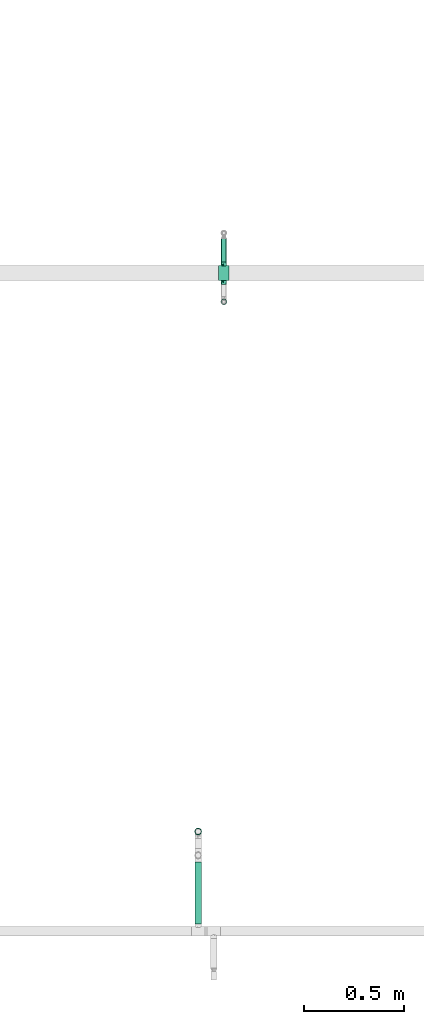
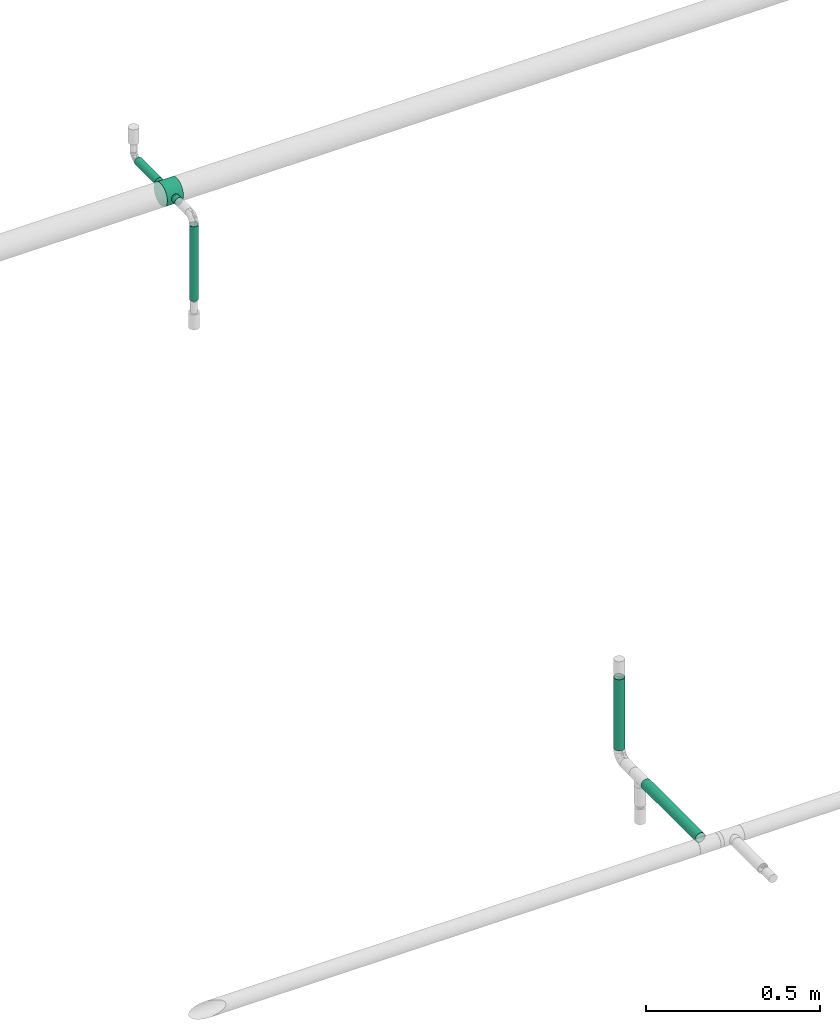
# One storey, part 9 of 51: 4 flow segments, 1 flow fitting.
"""IFC2X3 building model written with IfcOpenShell, lengths in millimetres."""

from ifc_helpers import new_model, entity, si_unit, converted_unit, derived_unit, direction, frame, origin_with_axes, origin_2d_with_axis, place, context, subcontext, project, spatial, hollow_circle, extrude, open_shell, surface_model, source, transform, mapped, type_object, element, save


model = new_model("IFC2X3")

# Units and contexts
model_context = context("Model", 3, precision=0.01, world=frame((0.0, 4.29681676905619e-09, 0.0)), true_north=direction((4.01073788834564e-13, 1.0)))
plan_context = context("Plan", 3, precision=0.01, world=frame((0.0, 4.29681676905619e-09, 0.0)), true_north=direction((4.01073788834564e-13, 1.0)))
body_context = subcontext(model_context, "Body", "Model", "MODEL_VIEW")
ifc_project = project(units=[converted_unit("PLANEANGLEUNIT", "DEGREE", entity("IfcPositiveLengthMeasure", 0.0174532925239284), si_unit("PLANEANGLEUNIT", "RADIAN"), dimensions=[0, 0, 0, 0, 0, 0, 0]), si_unit("AREAUNIT", "SQUARE_METRE"), si_unit("LENGTHUNIT", "METRE", prefix="MILLI"), si_unit("MASSUNIT", "GRAM", prefix="KILO"), si_unit("POWERUNIT", "WATT"), si_unit("PRESSUREUNIT", "PASCAL"), si_unit("FORCEUNIT", "NEWTON", prefix="KILO"), si_unit("ELECTRICVOLTAGEUNIT", "VOLT"), si_unit("ELECTRICCURRENTUNIT", "AMPERE"), si_unit("THERMODYNAMICTEMPERATUREUNIT", "DEGREE_CELSIUS"), si_unit("TIMEUNIT", "SECOND"), si_unit("VOLUMEUNIT", "CUBIC_METRE"), derived_unit("LINEARVELOCITYUNIT", [(si_unit("LENGTHUNIT", "METRE"), 1), (si_unit("TIMEUNIT", "SECOND"), -1)]), derived_unit("VOLUMETRICFLOWRATEUNIT", [(si_unit("VOLUMEUNIT", "CUBIC_METRE"), 1), (si_unit("TIMEUNIT", "SECOND"), -1)]), derived_unit("THERMALTRANSMITTANCEUNIT", [(si_unit("POWERUNIT", "WATT"), 1), (si_unit("THERMODYNAMICTEMPERATUREUNIT", "KELVIN"), -1), (si_unit("AREAUNIT", "SQUARE_METRE"), -1)]), derived_unit("SOUNDPRESSUREUNIT", [(si_unit("PRESSUREUNIT", "PASCAL"), 1)])], contexts=[model_context, plan_context])

# Site, building, storey
site_placement = place(None, frame((0.0, -4.29681676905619e-09, 0.0), z_axis=(0.0, 0.0, 1.0), x_axis=(1.0, 0.0, 0.0)))
site = spatial("IfcSite", under=ifc_project, at=site_placement, Name="ENGM", CompositionType="ELEMENT")
building_placement = place(site_placement, frame((0.0, 4.29681676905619e-09, 0.0), z_axis=(0.0, 0.0, 1.0), x_axis=(1.0, 0.0, 0.0)))
building = spatial("IfcBuilding", under=site, at=building_placement, Name="TH", CompositionType="ELEMENT")
storey_placement = place(building_placement, frame((0.0, 0.0, 210200.0), z_axis=(0.0, 0.0, 1.0), x_axis=(1.0, 0.0, 0.0)))
storey = spatial("IfcBuildingStorey", under=building, at=storey_placement, Name="Nivå F - 0,7 m", CompositionType="ELEMENT", Elevation=210200.0)

# Flow fitting
pipe_fitting_type = type_object("IfcPipeFittingType", Name="magi_pipe_fe_cross_centric_90_001", PredefinedType="JUNCTION")
shared_shape_1 = source(origin_with_axes(), body_context, "Body", "SurfaceModel", [
    surface_model("IfcShellBasedSurfaceModel", [(-26.8, 19.05, -32.99557), (-26.8, 9.86101, -36.80177), (-26.8, 0.0, -38.1), (-26.8, 26.94077, -26.94077), (-26.8, 36.80177, -9.86101), (-26.8, 32.99557, -19.05), (-26.8, -36.80177, 9.86101), (-26.8, -38.1, 0.0), (-26.8, -19.05, -32.99557), (-26.8, -26.94077, -26.94077), (-26.8, -9.86101, -36.80177), (-26.8, -36.80177, -9.86101), (-26.8, -32.99557, -19.05), (-26.8, 38.1, 0.0), (-26.8, 32.99557, 19.05), (-26.8, 36.80177, 9.86101), (-26.8, 19.05, 32.99557), (-26.8, 26.94077, 26.94077), (-26.8, 0.0, 38.1), (-26.8, 9.86101, 36.80177), (-26.8, -26.94077, 26.94077), (-26.8, -32.99557, 19.05), (-26.8, -9.86101, 36.80177), (-26.8, -19.05, 32.99557), (26.8, 0.0, -38.1), (26.8, 9.86101, -36.80177), (26.8, 19.05, -32.99557), (26.8, 26.94077, -26.94077), (26.8, 32.99557, -19.05), (26.8, 36.80177, -9.86101), (26.8, -26.94077, -26.94077), (26.8, -38.1, 0.0), (26.8, -9.86101, -36.80177), (26.8, -19.05, -32.99557), (26.8, -32.99557, -19.05), (26.8, -36.80177, -9.86101), (26.8, 36.80177, 9.86101), (26.8, 32.99557, 19.05), (26.8, 19.05, 32.99557), (26.8, 0.0, 38.1), (26.8, 26.94077, 26.94077), (26.8, 9.86101, 36.80177), (26.8, -32.99557, 19.05), (26.8, -26.94077, 26.94077), (26.8, -36.80177, 9.86101), (26.8, -19.05, 32.99557), (26.8, -9.86101, 36.80177), (26.8, 38.1, 0.0), (10.25617, -37.11117, 8.62386), (26.8, -37.45089, 4.9305), (12.58238, -37.82018, 4.60909), (13.4, -38.1, 0.0), (6.72002, -36.29337, 11.59316), (2.34178, -35.74261, 13.19379), (-12.58238, 37.82018, 4.60909), (-26.8, 37.45089, 4.9305), (-10.25983, -37.11218, 8.6195), (-6.72112, -36.29357, 11.59252), (-26.8, -37.45089, 4.9305), (-13.4, -38.1, 0.0), (-12.58273, -37.8203, 4.60814), (-2.34536, -35.74284, 13.19315), (12.58273, 37.8203, 4.60814), (26.8, 37.45089, 4.9305), (13.4, 38.1, 0.0), (10.25983, 37.11218, 8.6195), (6.72112, 36.29357, 11.59252), (2.34536, 35.74284, 13.19315), (-2.34178, 35.74261, 13.19379), (-6.72002, 36.29337, 11.59316), (-10.25617, 37.11117, 8.62386), (-13.4, 38.1, 0.0), (10.25983, 37.11218, -8.6195), (26.8, 37.45089, -4.9305), (12.58273, 37.8203, -4.60814), (6.72112, 36.29357, -11.59252), (-10.25617, 37.11117, -8.62386), (-26.8, 37.45089, -4.9305), (-12.58238, 37.82018, -4.60909), (2.34536, 35.74284, -13.19315), (-2.34178, 35.74261, -13.19379), (-6.72002, 36.29337, -11.59316), (-12.58273, -37.8203, -4.60814), (-26.8, -37.45089, -4.9305), (10.25617, -37.11117, -8.62386), (26.8, -37.45089, -4.9305), (12.58238, -37.82018, -4.60909), (6.72002, -36.29337, -11.59316), (2.34178, -35.74261, -13.19379), (-2.34536, -35.74284, -13.19315), (-6.72112, -36.29357, -11.59252), (-10.25983, -37.11218, -8.6195), (9.47523, -57.15, -9.47523), (0.0, -57.15, -13.4), (3.46818, -57.15, -12.94341), (6.7, -57.15, -11.60474), (11.60474, -57.15, -6.7), (12.94341, -57.15, -3.46818), (-12.94341, -57.15, 3.46818), (-12.94341, -57.15, -3.46818), (-3.46818, -57.15, -12.94341), (-9.47523, -57.15, -9.47523), (-6.7, -57.15, -11.60474), (-11.60474, -57.15, -6.7), (-13.4, -57.15, 0.0), (13.4, -57.15, 0.0), (12.94341, -57.15, 3.46818), (11.60474, -57.15, 6.7), (6.7, -57.15, 11.60474), (9.47523, -57.15, 9.47523), (3.46818, -57.15, 12.94341), (-9.47523, -57.15, 9.47523), (-11.60474, -57.15, 6.7), (-6.7, -57.15, 11.60474), (-3.46818, -57.15, 12.94341), (0.0, -57.15, 13.4), (-12.99136, -37.96015, 2.30407), (-4.53324, -36.01821, 12.39284), (-0.00179, -35.74272, 13.19347), (4.5309, -36.01799, 12.39347), (12.99119, -37.96009, 2.30455), (12.99119, -37.96009, -2.30455), (-12.99136, -37.96015, -2.30407), (4.5309, -36.01799, -12.39347), (-0.00179, -35.74272, -13.19347), (-4.53324, -36.01821, -12.39284), (0.0, 57.15, -13.4), (-3.46818, 57.15, -12.94341), (-6.7, 57.15, -11.60474), (-9.47523, 57.15, -9.47523), (-11.60474, 57.15, -6.7), (-12.94341, 57.15, -3.46818), (11.60474, 57.15, -6.7), (12.94341, 57.15, 3.46818), (12.94341, 57.15, -3.46818), (3.46818, 57.15, -12.94341), (9.47523, 57.15, -9.47523), (6.7, 57.15, -11.60474), (13.4, 57.15, 0.0), (-13.4, 57.15, 0.0), (-12.94341, 57.15, 3.46818), (-11.60474, 57.15, 6.7), (-6.7, 57.15, 11.60474), (-9.47523, 57.15, 9.47523), (0.0, 57.15, 13.4), (-3.46818, 57.15, 12.94341), (11.60474, 57.15, 6.7), (6.7, 57.15, 11.60474), (9.47523, 57.15, 9.47523), (3.46818, 57.15, 12.94341), (12.99136, 37.96015, 2.30407), (4.53324, 36.01821, 12.39284), (0.00179, 35.74272, 13.19347), (-4.5309, 36.01799, 12.39347), (-12.99119, 37.96009, 2.30455), (-12.99119, 37.96009, -2.30455), (12.99136, 37.96015, -2.30407), (-4.5309, 36.01799, -12.39347), (0.00179, 35.74272, -13.19347), (4.53324, 36.01821, -12.39284)], [open_shell([[[0, 1, 2]], [[3, 0, 2]], [[4, 5, 3]], [[6, 2, 7]], [[2, 6, 3]], [[8, 9, 10]], [[7, 10, 9]], [[11, 7, 12]], [[9, 12, 7]], [[7, 2, 10]], [[13, 4, 3]], [[14, 15, 13]], [[14, 13, 6]], [[6, 16, 14]], [[17, 14, 16]], [[16, 18, 19]], [[20, 18, 21]], [[6, 21, 18]], [[22, 18, 23]], [[20, 23, 18]], [[18, 16, 6]], [[3, 6, 13]], [[24, 25, 26]], [[24, 26, 27]], [[27, 28, 29]], [[24, 27, 30]], [[31, 27, 29]], [[32, 30, 33]], [[32, 24, 30]], [[34, 31, 35]], [[31, 34, 30]], [[27, 31, 30]], [[29, 36, 31]], [[36, 37, 31]], [[31, 37, 38]], [[38, 39, 31]], [[38, 37, 40]], [[39, 38, 41]], [[42, 39, 43]], [[44, 31, 42]], [[45, 39, 46]], [[39, 45, 43]], [[39, 42, 31]], [[36, 29, 47]], [[44, 48, 49]], [[50, 51, 31]], [[50, 49, 48]], [[44, 52, 48]], [[43, 20, 42]], [[45, 23, 43]], [[52, 42, 53]], [[42, 52, 44]], [[21, 53, 42]], [[45, 46, 22]], [[54, 13, 55]], [[56, 57, 6]], [[56, 6, 58]], [[59, 60, 7]], [[7, 60, 58]], [[57, 21, 6]], [[53, 21, 61]], [[42, 20, 21]], [[61, 21, 57]], [[23, 20, 43]], [[45, 22, 23]], [[46, 18, 22]], [[50, 31, 49]], [[46, 39, 18]], [[40, 17, 38]], [[41, 19, 39]], [[41, 38, 16]], [[14, 40, 37]], [[62, 63, 47]], [[62, 47, 64]], [[65, 66, 36]], [[65, 36, 63]], [[36, 66, 37]], [[67, 37, 66]], [[19, 41, 16]], [[68, 37, 67]], [[56, 58, 60]], [[37, 68, 14]], [[17, 16, 38]], [[40, 14, 17]], [[68, 69, 14]], [[65, 63, 62]], [[54, 55, 70]], [[69, 70, 15]], [[55, 15, 70]], [[13, 54, 71]], [[69, 15, 14]], [[39, 19, 18]], [[29, 72, 73]], [[74, 64, 47]], [[74, 73, 72]], [[29, 75, 72]], [[76, 77, 78]], [[79, 28, 80]], [[28, 79, 75]], [[27, 5, 28]], [[26, 3, 27]], [[26, 25, 0]], [[28, 75, 29]], [[76, 81, 4]], [[76, 4, 77]], [[71, 78, 13]], [[13, 78, 77]], [[81, 5, 4]], [[0, 3, 26]], [[25, 1, 0]], [[82, 7, 83]], [[3, 5, 27]], [[5, 80, 28]], [[84, 85, 86]], [[25, 2, 1]], [[80, 5, 81]], [[74, 47, 73]], [[25, 24, 2]], [[30, 9, 33]], [[32, 10, 24]], [[32, 33, 8]], [[12, 30, 34]], [[86, 85, 31]], [[86, 31, 51]], [[84, 87, 35]], [[84, 35, 85]], [[35, 87, 34]], [[88, 34, 87]], [[10, 32, 8]], [[88, 12, 34]], [[12, 88, 89]], [[9, 8, 33]], [[30, 12, 9]], [[89, 90, 12]], [[82, 83, 91]], [[90, 91, 11]], [[83, 11, 91]], [[7, 82, 59]], [[90, 11, 12]], [[24, 10, 2]], [[92, 93, 94]], [[92, 94, 95]], [[92, 96, 97]], [[93, 92, 98]], [[98, 99, 93]], [[100, 101, 102]], [[100, 93, 101]], [[103, 101, 93]], [[93, 99, 103]], [[99, 98, 104]], [[98, 92, 97]], [[105, 106, 107]], [[107, 108, 97]], [[108, 98, 97]], [[108, 107, 109]], [[98, 108, 110]], [[98, 111, 112]], [[111, 98, 113]], [[98, 114, 113]], [[114, 98, 115]], [[98, 110, 115]], [[97, 105, 107]], [[98, 116, 104]], [[56, 112, 111]], [[98, 112, 60]], [[111, 113, 57]], [[116, 59, 104]], [[60, 112, 56]], [[114, 61, 117]], [[57, 56, 111]], [[115, 53, 118]], [[108, 119, 110]], [[120, 105, 51]], [[117, 113, 114]], [[117, 57, 113]], [[52, 108, 109]], [[98, 60, 116]], [[50, 107, 106]], [[120, 50, 106]], [[107, 48, 109]], [[115, 61, 114]], [[110, 119, 53]], [[53, 115, 110]], [[52, 119, 108]], [[52, 109, 48]], [[48, 107, 50]], [[105, 120, 106]], [[118, 61, 115]], [[97, 121, 105]], [[84, 96, 92]], [[122, 104, 59]], [[96, 86, 97]], [[95, 87, 92]], [[121, 51, 105]], [[86, 96, 84]], [[94, 88, 123]], [[87, 84, 92]], [[93, 89, 124]], [[102, 125, 100]], [[123, 87, 95]], [[123, 95, 94]], [[97, 86, 121]], [[90, 102, 101]], [[102, 90, 125]], [[82, 103, 99]], [[103, 91, 101]], [[93, 88, 94]], [[89, 93, 100]], [[125, 89, 100]], [[124, 88, 93]], [[90, 101, 91]], [[91, 103, 82]], [[104, 122, 99]], [[122, 82, 99]], [[126, 127, 128]], [[126, 128, 129]], [[129, 130, 131]], [[126, 129, 132]], [[129, 133, 134]], [[135, 136, 137]], [[136, 135, 132]], [[126, 132, 135]], [[129, 134, 132]], [[134, 133, 138]], [[129, 131, 133]], [[139, 140, 141]], [[139, 141, 142]], [[139, 142, 133]], [[142, 141, 143]], [[144, 142, 145]], [[146, 147, 148]], [[144, 146, 133]], [[146, 149, 147]], [[149, 146, 144]], [[133, 142, 144]], [[139, 133, 131]], [[133, 150, 138]], [[65, 146, 148]], [[133, 146, 62]], [[148, 147, 66]], [[150, 64, 138]], [[62, 146, 65]], [[149, 67, 151]], [[66, 65, 148]], [[144, 68, 152]], [[142, 153, 145]], [[154, 139, 71]], [[151, 147, 149]], [[151, 66, 147]], [[69, 142, 143]], [[133, 62, 150]], [[54, 141, 140]], [[154, 54, 140]], [[141, 70, 143]], [[144, 67, 149]], [[145, 153, 68]], [[68, 144, 145]], [[69, 153, 142]], [[69, 143, 70]], [[70, 141, 54]], [[139, 154, 140]], [[152, 67, 144]], [[131, 155, 139]], [[76, 130, 129]], [[156, 138, 64]], [[130, 78, 131]], [[128, 81, 129]], [[155, 71, 139]], [[78, 130, 76]], [[127, 80, 157]], [[81, 76, 129]], [[126, 79, 158]], [[137, 159, 135]], [[157, 81, 128]], [[157, 128, 127]], [[131, 78, 155]], [[75, 137, 136]], [[137, 75, 159]], [[74, 132, 134]], [[132, 72, 136]], [[126, 80, 127]], [[79, 126, 135]], [[159, 79, 135]], [[158, 80, 126]], [[75, 136, 72]], [[72, 132, 74]], [[138, 156, 134]], [[156, 74, 134]]])]),
])
flow_fitting_placement = place(storey_placement, frame((906000.0, 484329.45519, 2933.0), z_axis=(0.0, 0.0, 1.0), x_axis=(-1.0, 0.0, 0.0)))
element("IfcFlowFitting", 1, at=flow_fitting_placement, inside=storey, type_object=pipe_fitting_type, Name="magi_pipe_fe_cross_centric_90_001", context=body_context, shape_type="MappedRepresentation", body=[
    mapped(shared_shape_1, transform((0.0, 0.0, 0.0), scale=1.0)),
])

# Flow segments
pipe_segment_type = type_object("IfcPipeSegmentType", Name="Stålrør normaltykke", PredefinedType="RIGIDSEGMENT")
shared_shape_2 = source(origin_with_axes(), body_context, "Body", "SweptSolid", [
    extrude(hollow_circle(Radius=16.9, WallThickness=2.0, at=origin_2d_with_axis()), frame((0.0, 0.0, 0.0), z_axis=(1.0, 0.0, 0.0), x_axis=(0.0, 1.0, 0.0)), (0.0, 0.0, 1.0), 248.8),
])
flow_segment_1_placement = place(storey_placement, frame((905871.02472, 481524.00985, 2733.79999999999), z_axis=(0.0, 1.0, 0.0), x_axis=(0.0, 0.0, 1.0)))
element("IfcFlowSegment", 2, at=flow_segment_1_placement, inside=storey, type_object=pipe_segment_type, Name="Stålrør normaltykke", context=body_context, shape_type="MappedRepresentation", body=[
    mapped(shared_shape_2, transform((0.0, 0.0, 0.0), scale=1.0)),
])
shared_shape_3 = source(origin_with_axes(), body_context, "Body", "SweptSolid", [
    extrude(hollow_circle(Radius=16.9, WallThickness=2.0, at=origin_2d_with_axis()), frame((0.0, 0.0, 0.0), z_axis=(1.0, 0.0, 0.0), x_axis=(0.0, 1.0, 0.0)), (0.0, 0.0, 1.0), 311.2),
])
flow_segment_2_placement = place(storey_placement, frame((905871.02472, 481370.59138, 2700.0), z_axis=(0.0, 0.0, 1.0), x_axis=(0.0, -1.0, 0.0)))
element("IfcFlowSegment", 3, at=flow_segment_2_placement, inside=storey, type_object=pipe_segment_type, Name="Stålrør normaltykke", context=body_context, shape_type="MappedRepresentation", body=[
    mapped(shared_shape_3, transform((0.0, 0.0, 0.0), scale=1.0)),
])
shared_shape_4 = source(origin_with_axes(), body_context, "Body", "SweptSolid", [
    extrude(hollow_circle(Radius=13.3, WallThickness=2.0, at=origin_2d_with_axis()), frame((0.0, 0.0, 0.0), z_axis=(1.0, 0.0, 0.0), x_axis=(0.0, 1.0, 0.0)), (0.0, 0.0, 1.0), 260.9),
])
flow_segment_3_placement = place(storey_placement, frame((906000.0, 484185.40642, 2645.32693000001), z_axis=(1.0, 0.0, 0.0), x_axis=(0.0, 0.0, 1.0)))
element("IfcFlowSegment", 4, at=flow_segment_3_placement, inside=storey, type_object=pipe_segment_type, Name="Stålrør normaltykke", context=body_context, shape_type="MappedRepresentation", body=[
    mapped(shared_shape_4, transform((0.0, 0.0, 0.0), scale=1.0)),
])
shared_shape_5 = source(origin_with_axes(), body_context, "Body", "SweptSolid", [
    extrude(hollow_circle(Radius=13.3, WallThickness=2.0, at=origin_2d_with_axis()), frame((0.0, 0.0, 0.0), z_axis=(1.0, 0.0, 0.0), x_axis=(0.0, 1.0, 0.0)), (0.0, 0.0, 1.0), 118.1),
])
flow_segment_4_placement = place(storey_placement, frame((906000.0, 484386.60519, 2933.0), z_axis=(0.0, 0.0, 1.0), x_axis=(0.0, 1.0, 0.0)))
element("IfcFlowSegment", 5, at=flow_segment_4_placement, inside=storey, type_object=pipe_segment_type, Name="Stålrør normaltykke", context=body_context, shape_type="MappedRepresentation", body=[
    mapped(shared_shape_5, transform((0.0, 0.0, 0.0), scale=1.0)),
])

save(model, "model.ifc")
